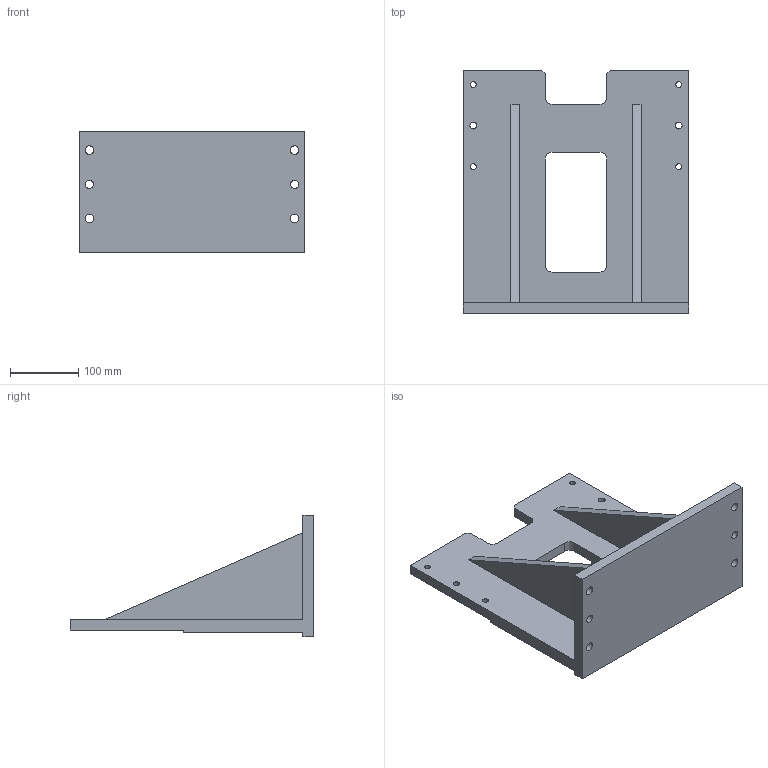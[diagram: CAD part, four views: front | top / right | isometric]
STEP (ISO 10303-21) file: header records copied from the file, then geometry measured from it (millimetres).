
FILE_DESCRIPTION(/* description */ ('DB4-RISER'),/* implementation_level */ '2;1');
FILE_NAME(/* name */ 'C:\Vault Workspace\CAD\Welker\Shot Pin\DBL40\S01896 DB4 Mounting Accessories\S01896E02\S01896E02-275.stp',/* time_stamp */ '2016-05-04T13:49:39-04:00',/* author */ ('klabrecque'),/* organization */ (''),/* preprocessor_version */ 'ST-DEVELOPER v15.2',/* originating_system */ 'Autodesk Inventor 2014',/* authorisation */ '');
FILE_SCHEMA (('AUTOMOTIVE_DESIGN { 1 0 10303 214 3 1 1 }'));
Length unit declared in the file: millimetre
Products named in the file (1): S01896E02-275
Bounding box: 330 x 356 x 177.8 mm (x, y, z)
Volume: 2958191.5 mm3; surface area: 414504.4 mm2
Topology: 1 solids, 1 shells, 47 faces, 150 edges, 104 vertices
Faces by surface type: plane 29, cylinder 18
Full cylindrical faces by diameter (mm): 8.376 x4, 10 x2, 12 x2, 12.5 x4
Entity records: 1628 total; most frequent: CARTESIAN_POINT 266, DIRECTION 258, ORIENTED_EDGE 252, EDGE_CURVE 126, VERTEX_POINT 92, LINE 90, VECTOR 90, EDGE_LOOP 84
